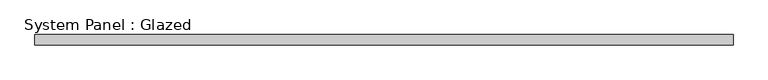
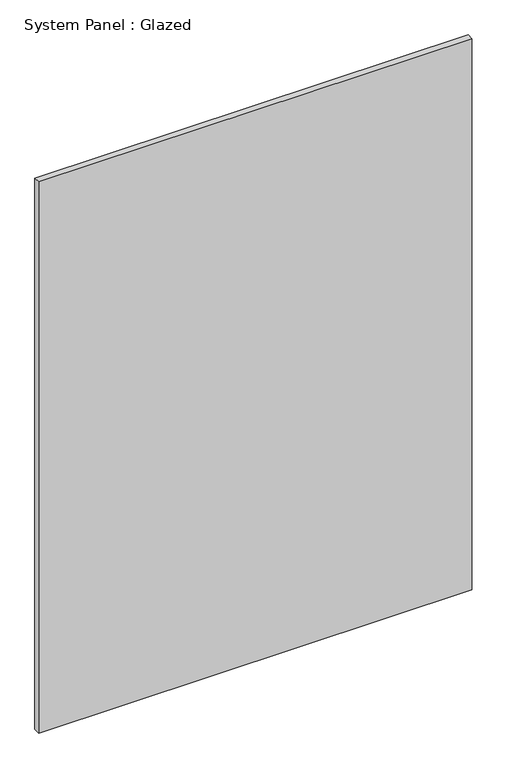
"""IFC4 building model written with IfcOpenShell, lengths in millimetres: plate geometry, System Panel : Glazed."""

from ifc_helpers import new_model, si_unit, origin, origin_with_axes, place, context, project, spatial, polyline, outline, extrude, source, transform, mapped, element, save


def system_panel_glazed_bad1c57b(model_context):
    return source(origin(), model_context, "Body", "SweptSolid", [
        extrude(outline(polyline([(874.7173453, 19.05), (-874.7173453, 19.05), (-874.7173453, 44.45), (874.7173453, 44.45), (874.7173453, 19.05)])), origin_with_axes(), (0.0, 0.0, 1.0), 2352.7115942),
    ])


if __name__ == "__main__":
    model = new_model("IFC4")
    model_context = context("Model", 3, world=origin())
    ifc_project = project(units=[si_unit("LENGTHUNIT", "METRE", prefix="MILLI")], contexts=[model_context])
    site = spatial("IfcSite", under=ifc_project)
    building = spatial("IfcBuilding", under=site)
    placement = place(None, origin())
    system_panel_glazed_shape = system_panel_glazed_bad1c57b(model_context)
    element("IfcPlate", 1, ObjectType="System Panel : Glazed", at=placement, inside=building, context=model_context, shape_type="MappedRepresentation", body=[
        mapped(system_panel_glazed_shape, transform((0.0, 0.0, 0.0), x_axis=(1.0, 0.0, 0.0), y_axis=(0.0, 1.0, 0.0), z_axis=(0.0, 0.0, 1.0))),
    ])
    save(model, "model.ifc")
